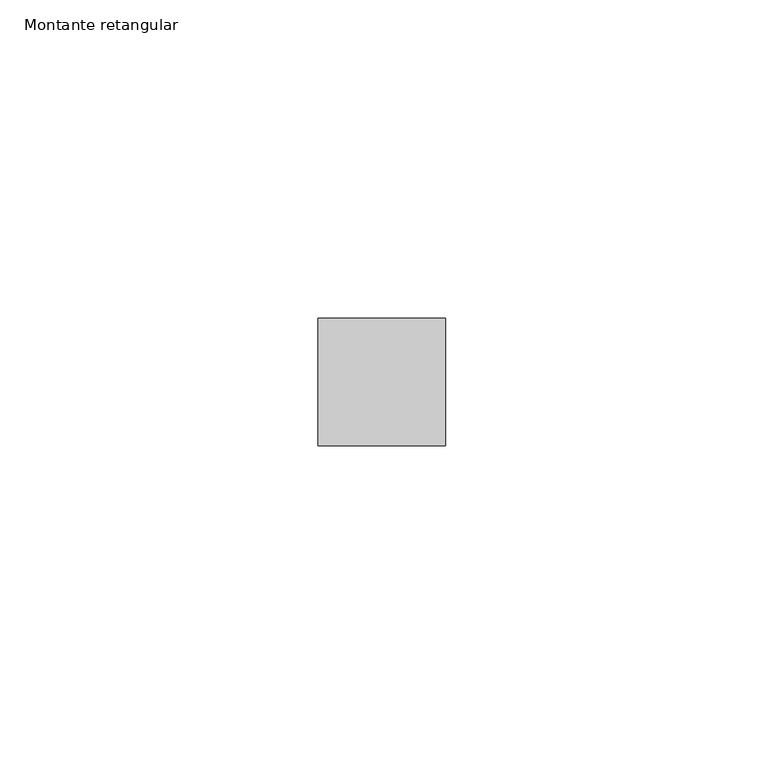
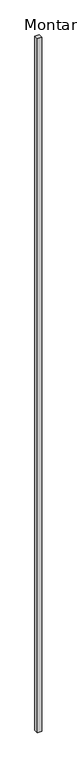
"""IFC4 building model written with IfcOpenShell, lengths in millimetres: member geometry, Montante retangular : ARQ_RIPAS."""

from ifc_helpers import new_model, si_unit, frame, origin, place, context, project, spatial, polyline, outline, extrude, source, transform, mapped, element, save


def montante_retangular_b7862d56(model_context):
    return source(origin(), model_context, "Body", "SweptSolid", [
        extrude(outline(polyline([(0.0, 0.0), (0.0, -20.0), (-20.0, -20.0), (-20.0, 0.0), (0.0, 0.0)])), frame((0.0, 0.0, -3310.0), z_axis=(0.0, 0.0, 1.0), x_axis=(1.0, 0.0, 0.0)), (0.0, 0.0, 1.0), 3310.0),
    ])


if __name__ == "__main__":
    model = new_model("IFC4")
    model_context = context("Model", 3, world=origin())
    ifc_project = project(units=[si_unit("LENGTHUNIT", "METRE", prefix="MILLI")], contexts=[model_context])
    site = spatial("IfcSite", under=ifc_project)
    building = spatial("IfcBuilding", under=site)
    placement = place(None, origin())
    montante_retangular_shape = montante_retangular_b7862d56(model_context)
    element("IfcMember", 1, ObjectType="Montante retangular : ARQ_RIPAS", at=placement, inside=building, context=model_context, shape_type="MappedRepresentation", body=[
        mapped(montante_retangular_shape, transform((0.0, 0.0, 0.0), x_axis=(1.0, 0.0, 0.0), y_axis=(0.0, 1.0, 0.0), z_axis=(0.0, 0.0, 1.0))),
    ])
    save(model, "model.ifc")
